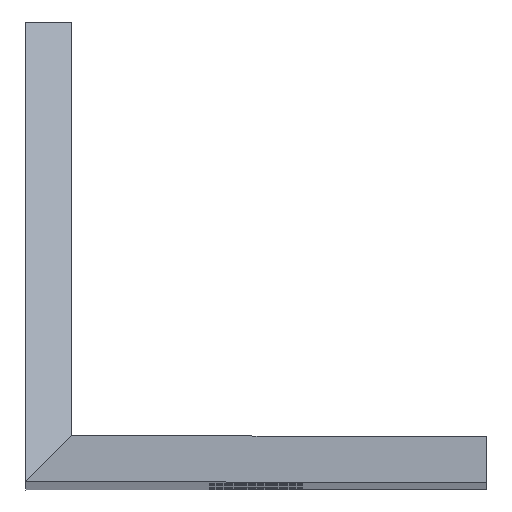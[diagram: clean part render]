
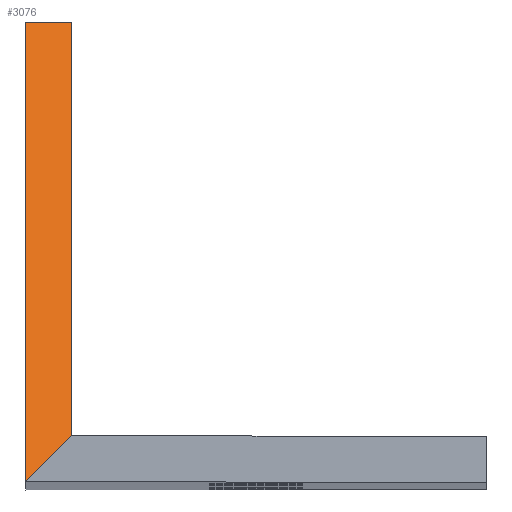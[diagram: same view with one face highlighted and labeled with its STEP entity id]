
A CAD part, top view. The second image highlights one B-rep face of the part: STEP entity #3076.
In plain terms, the highlighted planar face has unit normal (0, 0.707, 0.707).
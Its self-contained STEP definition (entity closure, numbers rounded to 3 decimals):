
#26 = EDGE_CURVE ( 'NONE', #703, #690, #2382, .T. ) ;
#200 = DIRECTION ( 'NONE',  ( 0.577, 0.577, -0.577 ) ) ;
#234 = CARTESIAN_POINT ( 'NONE',  ( 0.667, 0.667, 207.133 ) ) ;
#690 = VERTEX_POINT ( 'NONE', #1796 ) ;
#703 = VERTEX_POINT ( 'NONE', #1783 ) ;
#704 = VERTEX_POINT ( 'NONE', #1801 ) ;
#709 = VERTEX_POINT ( 'NONE', #1839 ) ;
#809 = ORIENTED_EDGE ( 'NONE', *, *, #2949, .F. ) ;
#838 = ORIENTED_EDGE ( 'NONE', *, *, #3002, .F. ) ;
#862 = ORIENTED_EDGE ( 'NONE', *, *, #26, .T. ) ;
#864 = ORIENTED_EDGE ( 'NONE', *, *, #2911, .T. ) ;
#953 = EDGE_LOOP ( 'NONE', ( #864, #862, #838, #809 ) ) ;
#1053 = CARTESIAN_POINT ( 'NONE',  ( 0., 20., 187.8 ) ) ;
#1084 = DIRECTION ( 'NONE',  ( 1., 0., 0. ) ) ;
#1144 = DIRECTION ( 'NONE',  ( 0., -0.707, 0.707 ) ) ;
#1169 = CARTESIAN_POINT ( 'NONE',  ( 2., 0., 207.8 ) ) ;
#1367 = DIRECTION ( 'NONE',  ( 0., -0.707, -0.707 ) ) ;
#1386 = CARTESIAN_POINT ( 'NONE',  ( 2., 0., 207.8 ) ) ;
#1406 = PLANE ( 'NONE',  #2862 ) ;
#1409 = DIRECTION ( 'NONE',  ( 0., 0.707, -0.707 ) ) ;
#1783 = CARTESIAN_POINT ( 'NONE',  ( 0., 0., 207.8 ) ) ;
#1796 = CARTESIAN_POINT ( 'NONE',  ( 2., 2., 205.8 ) ) ;
#1801 = CARTESIAN_POINT ( 'NONE',  ( 2., 20., 187.8 ) ) ;
#1839 = CARTESIAN_POINT ( 'NONE',  ( 0., 20., 187.8 ) ) ;
#1893 = CARTESIAN_POINT ( 'NONE',  ( 0., 0., 207.8 ) ) ;
#1897 = DIRECTION ( 'NONE',  ( 0., -0.707, 0.707 ) ) ;
#2082 = LINE ( 'NONE', #1169, #2104 ) ;
#2104 = VECTOR ( 'NONE', #1144, 1000. ) ;
#2116 = VECTOR ( 'NONE', #1084, 1000. ) ;
#2129 = LINE ( 'NONE', #1053, #2116 ) ;
#2304 = FACE_OUTER_BOUND ( 'NONE', #953, .T. ) ;
#2355 = VECTOR ( 'NONE', #200, 1000. ) ;
#2382 = LINE ( 'NONE', #234, #2355 ) ;
#2595 = VECTOR ( 'NONE', #1897, 1000. ) ;
#2614 = LINE ( 'NONE', #1893, #2595 ) ;
#2862 = AXIS2_PLACEMENT_3D ( 'NONE', #1386, #1367, #1409 ) ;
#2911 = EDGE_CURVE ( 'NONE', #709, #703, #2614, .T. ) ;
#2949 = EDGE_CURVE ( 'NONE', #709, #704, #2129, .T. ) ;
#3002 = EDGE_CURVE ( 'NONE', #704, #690, #2082, .T. ) ;
#3076 = ADVANCED_FACE ( 'NONE', ( #2304 ), #1406, .F. ) ;
